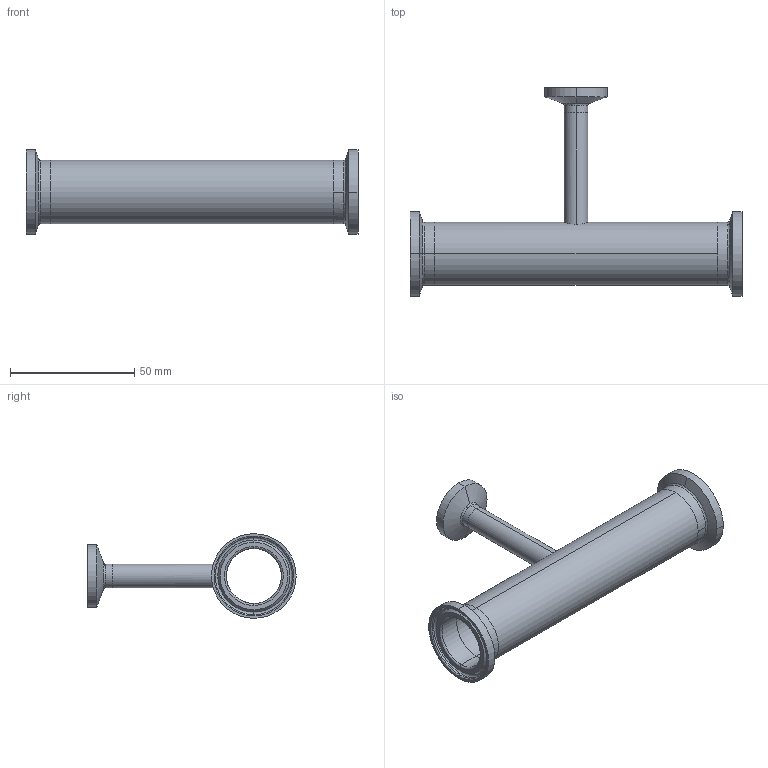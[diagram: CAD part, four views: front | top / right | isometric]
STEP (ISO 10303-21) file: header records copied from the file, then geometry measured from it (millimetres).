
FILE_DESCRIPTION (( 'STEP AP214' ), '1' );
FILE_NAME ('TEG7R6L1.0x.375-..Type A.STEP', '2016-05-24T06:02:29', ( 'eran' ), ( '' ), 'SwSTEP 2.0', 'SolidWorks 2016', '' );
FILE_SCHEMA (( 'AUTOMOTIVE_DESIGN' ));
Length unit declared in the file: millimetre
Products named in the file (1): TEG7R6L1.0x.375-..Type A
Bounding box: 133.4 x 83.71 x 34.01 mm (x, y, z)
Volume: 21857.5 mm3; surface area: 26531.8 mm2
Topology: 4 solids, 4 shells, 80 faces, 188 edges, 120 vertices
Faces by surface type: cylinder 32, bspline 24, plane 12, cone 12
Entity records: 2821 total; most frequent: CARTESIAN_POINT 917, DIRECTION 414, ORIENTED_EDGE 376, EDGE_CURVE 188, AXIS2_PLACEMENT_3D 185, CIRCLE 128, VERTEX_POINT 120, EDGE_LOOP 94
